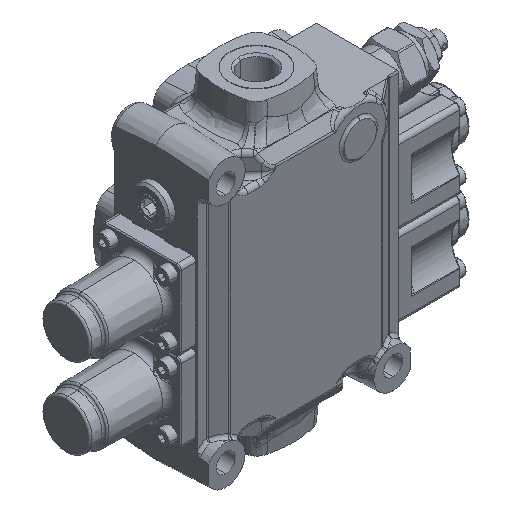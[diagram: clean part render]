
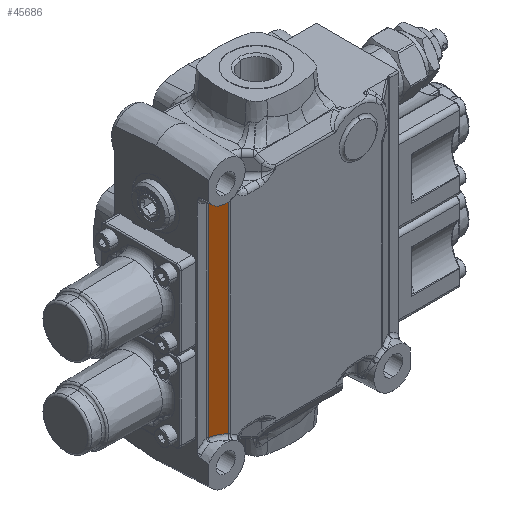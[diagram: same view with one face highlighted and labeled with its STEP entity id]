
A CAD part, isometric view. The second image highlights one B-rep face of the part: STEP entity #45686.
In plain terms, the highlighted planar face has unit normal (-0.5, -0.866, 0).
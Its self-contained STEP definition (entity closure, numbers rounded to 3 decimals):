
#2675 = ORIENTED_EDGE ( 'NONE', *, *, #13525, .T. ) ;
#4634 = VERTEX_POINT ( 'NONE', #7881 ) ;
#6142 = FACE_OUTER_BOUND ( 'NONE', #58193, .T. ) ;
#6409 = LINE ( 'NONE', #12057, #23891 ) ;
#6462 = DIRECTION ( 'NONE',  ( -0.5, -0.866, 0. ) ) ;
#7881 = CARTESIAN_POINT ( 'NONE',  ( -42.58, -19.701, 19.927 ) ) ;
#8178 = ORIENTED_EDGE ( 'NONE', *, *, #16679, .T. ) ;
#8246 = CARTESIAN_POINT ( 'NONE',  ( -42.58, -19.701, -75.927 ) ) ;
#8809 = CARTESIAN_POINT ( 'NONE',  ( -42.58, -19.701, 19.927 ) ) ;
#9780 = ORIENTED_EDGE ( 'NONE', *, *, #43196, .T. ) ;
#11153 = AXIS2_PLACEMENT_3D ( 'NONE', #39874, #6462, #59158 ) ;
#12057 = CARTESIAN_POINT ( 'NONE',  ( -36.348, -23.299, -173.95 ) ) ;
#13525 = EDGE_CURVE ( 'NONE', #4634, #46993, #52895, .T. ) ;
#13965 = ORIENTED_EDGE ( 'NONE', *, *, #40645, .T. ) ;
#16288 = CARTESIAN_POINT ( 'NONE',  ( -40.563, -20.866, -75.209 ) ) ;
#16679 = EDGE_CURVE ( 'NONE', #41014, #4634, #27308, .T. ) ;
#17657 = CARTESIAN_POINT ( 'NONE',  ( -40.563, -20.866, 19.209 ) ) ;
#18188 = DIRECTION ( 'NONE',  ( 0., 0., -1. ) ) ;
#20649 = PLANE ( 'NONE',  #11153 ) ;
#21981 = CARTESIAN_POINT ( 'NONE',  ( -36.348, -23.299, 19.64 ) ) ;
#23891 = VECTOR ( 'NONE', #40133, 1000. ) ;
#24330 = CARTESIAN_POINT ( 'NONE',  ( -36.348, -23.299, -75.64 ) ) ;
#27308 =( BOUNDED_CURVE ( )  B_SPLINE_CURVE ( 3, ( #37807, #46962, #17657, #8809 ),
 .UNSPECIFIED., .F., .F. ) 
 B_SPLINE_CURVE_WITH_KNOTS ( ( 4, 4 ),
 ( 4.463, 5.054 ),
 .UNSPECIFIED. ) 
 CURVE ( )  GEOMETRIC_REPRESENTATION_ITEM ( )  RATIONAL_B_SPLINE_CURVE ( ( 1., 0.971, 0.971, 1. ) ) 
 REPRESENTATION_ITEM ( '' )  );
#31770 = VERTEX_POINT ( 'NONE', #24330 ) ;
#32637 =( BOUNDED_CURVE ( )  B_SPLINE_CURVE ( 3, ( #44996, #16288, #35517, #54789 ),
 .UNSPECIFIED., .F., .F. ) 
 B_SPLINE_CURVE_WITH_KNOTS ( ( 4, 4 ),
 ( 1.229, 1.821 ),
 .UNSPECIFIED. ) 
 CURVE ( )  GEOMETRIC_REPRESENTATION_ITEM ( )  RATIONAL_B_SPLINE_CURVE ( ( 1., 0.971, 0.971, 1. ) ) 
 REPRESENTATION_ITEM ( '' )  );
#35517 = CARTESIAN_POINT ( 'NONE',  ( -38.423, -22.101, -75.11 ) ) ;
#37807 = CARTESIAN_POINT ( 'NONE',  ( -36.348, -23.299, 19.64 ) ) ;
#39874 = CARTESIAN_POINT ( 'NONE',  ( -36., -23.5, -173.95 ) ) ;
#40133 = DIRECTION ( 'NONE',  ( 0., 0., 1. ) ) ;
#40645 = EDGE_CURVE ( 'NONE', #31770, #41014, #6409, .T. ) ;
#41014 = VERTEX_POINT ( 'NONE', #21981 ) ;
#43196 = EDGE_CURVE ( 'NONE', #46993, #31770, #32637, .T. ) ;
#44996 = CARTESIAN_POINT ( 'NONE',  ( -42.58, -19.701, -75.927 ) ) ;
#45686 = ADVANCED_FACE ( 'NONE', ( #6142 ), #20649, .T. ) ;
#46962 = CARTESIAN_POINT ( 'NONE',  ( -38.423, -22.101, 19.11 ) ) ;
#46993 = VERTEX_POINT ( 'NONE', #8246 ) ;
#52895 = LINE ( 'NONE', #57940, #55496 ) ;
#54789 = CARTESIAN_POINT ( 'NONE',  ( -36.348, -23.299, -75.64 ) ) ;
#55496 = VECTOR ( 'NONE', #18188, 1000. ) ;
#57940 = CARTESIAN_POINT ( 'NONE',  ( -42.58, -19.701, -77.318 ) ) ;
#58193 = EDGE_LOOP ( 'NONE', ( #13965, #8178, #2675, #9780 ) ) ;
#59158 = DIRECTION ( 'NONE',  ( 0.866, -0.5, 0. ) ) ;
